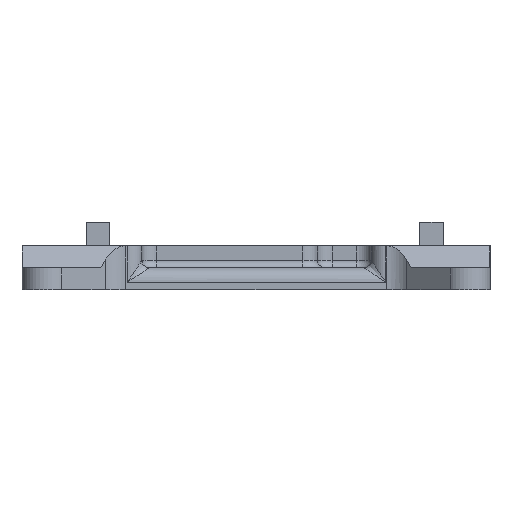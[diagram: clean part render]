
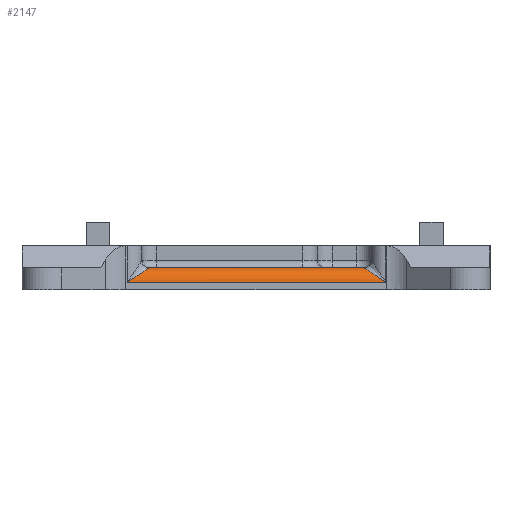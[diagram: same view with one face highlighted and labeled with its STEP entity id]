
A CAD part, left-side view. The second image highlights one B-rep face of the part: STEP entity #2147.
In plain terms, the highlighted cylindrical face has radius 1.587 mm (diameter 3.175 mm), a partial arc.
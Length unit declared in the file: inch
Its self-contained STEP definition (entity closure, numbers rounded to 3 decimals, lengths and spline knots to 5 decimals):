
#72 = CARTESIAN_POINT ( 'NONE',  ( 2.0025, 0., 0.46125 ) ) ;
#234 = VERTEX_POINT ( 'NONE', #2924 ) ;
#261 = CARTESIAN_POINT ( 'NONE',  ( 2.0025, 0., 0.46125 ) ) ;
#330 = ORIENTED_EDGE ( 'NONE', *, *, #5549, .F. ) ;
#333 = CARTESIAN_POINT ( 'NONE',  ( 2.065, 0.0625, 0.555 ) ) ;
#486 = DIRECTION ( 'NONE',  ( 0., 0., 1. ) ) ;
#601 = AXIS2_PLACEMENT_3D ( 'NONE', #4727, #486, #2352 ) ;
#871 = VECTOR ( 'NONE', #4211, 39.37008 ) ;
#948 = ORIENTED_EDGE ( 'NONE', *, *, #5668, .F. ) ;
#1376 = FACE_OUTER_BOUND ( 'NONE', #2868, .T. ) ;
#1417 = LINE ( 'NONE', #2775, #871 ) ;
#1478 = LINE ( 'NONE', #3354, #1657 ) ;
#1536 = CARTESIAN_POINT ( 'NONE',  ( 2.065, 0.0625, 0.555 ) ) ;
#1657 = VECTOR ( 'NONE', #2566, 39.37008 ) ;
#2020 = VERTEX_POINT ( 'NONE', #72 ) ;
#2147 = ADVANCED_FACE ( 'NONE', ( #1376 ), #3259, .T. ) ;
#2337 = EDGE_CURVE ( 'NONE', #3197, #234, #2779, .T. ) ;
#2352 = DIRECTION ( 'NONE',  ( 1., 0., 0. ) ) ;
#2566 = DIRECTION ( 'NONE',  ( 0., 0., -1. ) ) ;
#2775 = CARTESIAN_POINT ( 'NONE',  ( 2.0025, 0., 0. ) ) ;
#2779 =( BOUNDED_CURVE ( )  B_SPLINE_CURVE ( 3, ( #4064, #5524, #4097, #5592 ),
 .UNSPECIFIED., .F., .T. ) 
 B_SPLINE_CURVE_WITH_KNOTS ( ( 4, 4 ),
 ( 0., 1.5708 ),
 .UNSPECIFIED. ) 
 CURVE ( )  GEOMETRIC_REPRESENTATION_ITEM ( )  RATIONAL_B_SPLINE_CURVE ( ( 1., 0.805, 0.805, 1. ) ) 
 REPRESENTATION_ITEM ( '' )  );
#2868 = EDGE_LOOP ( 'NONE', ( #948, #5757, #330, #3589 ) ) ;
#2924 = CARTESIAN_POINT ( 'NONE',  ( 2.065, 0.0625, -0.55 ) ) ;
#3004 =( BOUNDED_CURVE ( )  B_SPLINE_CURVE ( 3, ( #333, #4507, #5872, #261 ),
 .UNSPECIFIED., .F., .T. ) 
 B_SPLINE_CURVE_WITH_KNOTS ( ( 4, 4 ),
 ( 4.71239, 6.28319 ),
 .UNSPECIFIED. ) 
 CURVE ( )  GEOMETRIC_REPRESENTATION_ITEM ( )  RATIONAL_B_SPLINE_CURVE ( ( 1., 0.805, 0.805, 1. ) ) 
 REPRESENTATION_ITEM ( '' )  );
#3197 = VERTEX_POINT ( 'NONE', #3424 ) ;
#3259 = CYLINDRICAL_SURFACE ( 'NONE', #601, 0.0625 ) ;
#3354 = CARTESIAN_POINT ( 'NONE',  ( 2.065, 0.0625, -0.60858 ) ) ;
#3424 = CARTESIAN_POINT ( 'NONE',  ( 2.0025, 0., -0.45625 ) ) ;
#3589 = ORIENTED_EDGE ( 'NONE', *, *, #2337, .T. ) ;
#4064 = CARTESIAN_POINT ( 'NONE',  ( 2.0025, 0., -0.45625 ) ) ;
#4097 = CARTESIAN_POINT ( 'NONE',  ( 2.065, 0.02589, -0.49508 ) ) ;
#4211 = DIRECTION ( 'NONE',  ( 0., 0., 1. ) ) ;
#4507 = CARTESIAN_POINT ( 'NONE',  ( 2.065, 0.02589, 0.50008 ) ) ;
#4727 = CARTESIAN_POINT ( 'NONE',  ( 2.0025, 0.0625, 0. ) ) ;
#5006 = VERTEX_POINT ( 'NONE', #1536 ) ;
#5524 = CARTESIAN_POINT ( 'NONE',  ( 2.03911, 0., -0.45625 ) ) ;
#5549 = EDGE_CURVE ( 'NONE', #3197, #2020, #1417, .T. ) ;
#5592 = CARTESIAN_POINT ( 'NONE',  ( 2.065, 0.0625, -0.55 ) ) ;
#5668 = EDGE_CURVE ( 'NONE', #5006, #234, #1478, .T. ) ;
#5731 = EDGE_CURVE ( 'NONE', #5006, #2020, #3004, .T. ) ;
#5757 = ORIENTED_EDGE ( 'NONE', *, *, #5731, .T. ) ;
#5872 = CARTESIAN_POINT ( 'NONE',  ( 2.03911, 0., 0.46125 ) ) ;
